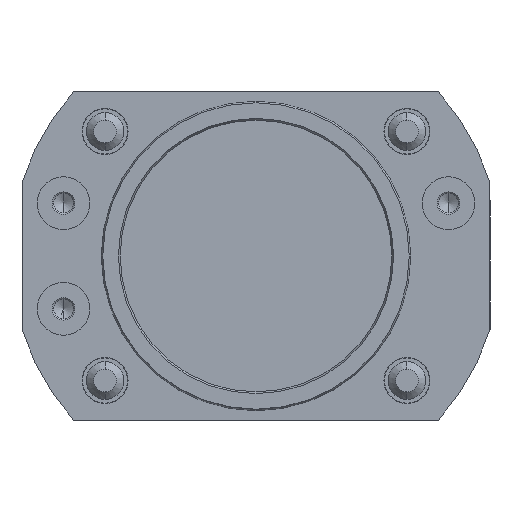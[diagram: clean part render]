
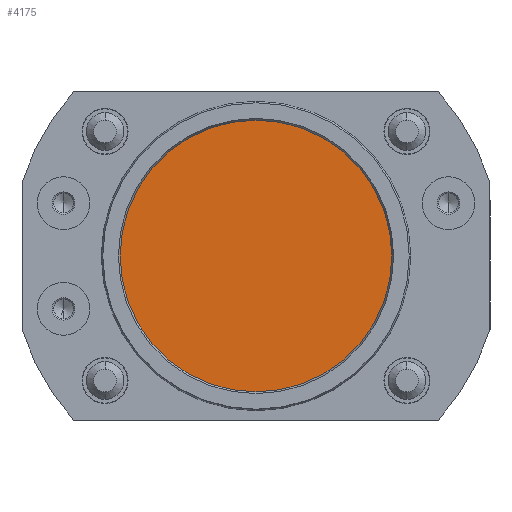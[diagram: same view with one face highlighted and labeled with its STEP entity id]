
A CAD part, front view. The second image highlights one B-rep face of the part: STEP entity #4175.
In plain terms, the highlighted planar face has unit normal (0, -1, 0).
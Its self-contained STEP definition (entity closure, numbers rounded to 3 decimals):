
#2560 = EDGE_CURVE ( 'NONE', #3847, #3825, #6000, .T. ) ;
#3825 = VERTEX_POINT ( 'NONE', #8520 ) ;
#3847 = VERTEX_POINT ( 'NONE', #8603 ) ;
#4175 = ADVANCED_FACE ( 'NONE', ( #9201 ), #9197, .T. ) ;
#4176 = ORIENTED_EDGE ( 'NONE', *, *, #2560, .F. ) ;
#4180 = EDGE_CURVE ( 'NONE', #3825, #3847, #9189, .T. ) ;
#4182 = EDGE_LOOP ( 'NONE', ( #4190, #4176 ) ) ;
#4190 = ORIENTED_EDGE ( 'NONE', *, *, #4180, .F. ) ;
#5997 = DIRECTION ( 'NONE',  ( 0., 1., 0. ) ) ;
#5998 = CARTESIAN_POINT ( 'NONE',  ( 0., 3., 0. ) ) ;
#5999 = AXIS2_PLACEMENT_3D ( 'NONE', #5998, #5997, #6038 ) ;
#6000 = CIRCLE ( 'NONE', #5999, 18. ) ;
#6038 = DIRECTION ( 'NONE',  ( 0., 0., 1. ) ) ;
#8520 = CARTESIAN_POINT ( 'NONE',  ( 0., 3., 18. ) ) ;
#8603 = CARTESIAN_POINT ( 'NONE',  ( 0., 3., -18. ) ) ;
#9178 = DIRECTION ( 'NONE',  ( 0., 0., 1. ) ) ;
#9179 = DIRECTION ( 'NONE',  ( 0., 1., 0. ) ) ;
#9180 = CARTESIAN_POINT ( 'NONE',  ( 0., 3., 0. ) ) ;
#9181 = AXIS2_PLACEMENT_3D ( 'NONE', #9180, #9179, #9178 ) ;
#9185 = DIRECTION ( 'NONE',  ( 0., 0., -1. ) ) ;
#9186 = DIRECTION ( 'NONE',  ( 0., -1., 0. ) ) ;
#9187 = CARTESIAN_POINT ( 'NONE',  ( 0., 3., 0. ) ) ;
#9189 = CIRCLE ( 'NONE', #9181, 18. ) ;
#9197 = PLANE ( 'NONE',  #9202 ) ;
#9201 = FACE_OUTER_BOUND ( 'NONE', #4182, .T. ) ;
#9202 = AXIS2_PLACEMENT_3D ( 'NONE', #9187, #9186, #9185 ) ;
